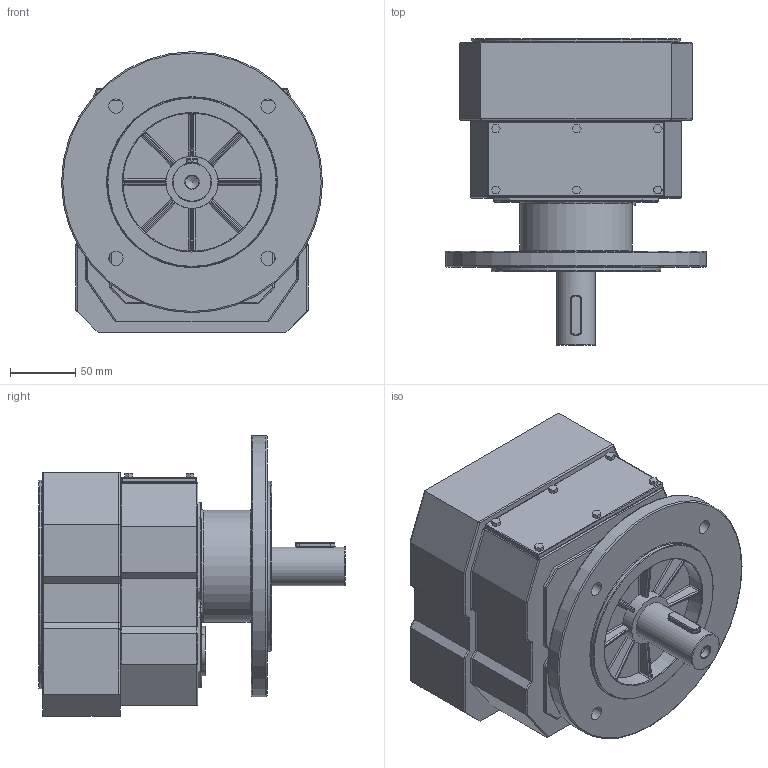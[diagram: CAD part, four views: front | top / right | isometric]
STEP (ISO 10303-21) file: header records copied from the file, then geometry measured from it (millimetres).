
FILE_DESCRIPTION((''),'2;1');
FILE_NAME('D:\PAWEŁ\ZLECENIA\2011 DualSystem\Przekładnie DR\DR40\STEP\DRF40_fi 200.stp','2012-06-11T11:53:45',('admin'),(''),'Autodesk Inventor 2009','Autodesk Inventor 2009','');
FILE_SCHEMA(('AUTOMOTIVE_DESIGN { 1 0 10303 214 1 1 1 1 }'));
Length unit declared in the file: millimetre
Products named in the file (1): DRF40_fi 200
Bounding box: 200 x 235 x 215 mm (x, y, z)
Volume: 4153209 mm3; surface area: 249324.4 mm2
Topology: 2 solids, 2 shells, 410 faces, 987 edges, 586 vertices
Faces by surface type: cylinder 170, plane 164, bspline 43, torus 19, sphere 14
Full cylindrical faces by diameter (mm): 25.333 x1, 30 x1, 34 x1, 38 x1, 40 x1, 86 x1, 106 x1, 120 x1, 130 x1, 160 x1, 200 x1
Entity records: 14220 total; most frequent: CARTESIAN_POINT 4712, DIRECTION 1992, ORIENTED_EDGE 1888, EDGE_CURVE 944, AXIS2_PLACEMENT_3D 722, VERTEX_POINT 579, VECTOR 548, LINE 548
